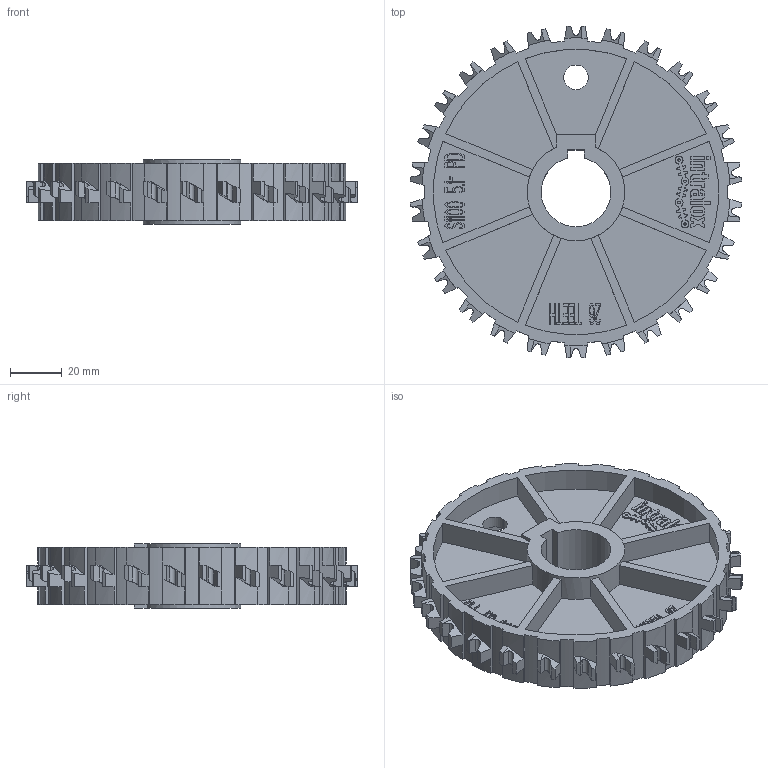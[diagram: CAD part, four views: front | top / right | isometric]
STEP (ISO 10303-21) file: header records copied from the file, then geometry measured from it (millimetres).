
FILE_DESCRIPTION((''),'2;1');
FILE_NAME('S1100_SPROCKET_51X25_PILOT','2008-12-12T',('jmumphre'),(''),'PRO/ENGINEER BY PARAMETRIC TECHNOLOGY CORPORATION, 2008150','PRO/ENGINEER BY PARAMETRIC TECHNOLOGY CORPORATION, 2008150','');
FILE_SCHEMA(('CONFIG_CONTROL_DESIGN'));
Length unit declared in the file: inch
Products named in the file (1): S1100_SPROCKET_51X25_PILOT
Bounding box: 128.44 x 128.52 x 24.89 mm (x, y, z)
Volume: 105151.2 mm3; surface area: 54021.9 mm2
Topology: 1 solids, 1 shells, 1111 faces, 3149 edges, 2082 vertices
Faces by surface type: plane 882, cylinder 229
Entity records: 36605 total; most frequent: CARTESIAN_POINT 7486, ORIENTED_EDGE 6298, DIRECTION 5701, EDGE_CURVE 3149, VECTOR 2611, LINE 2611, VERTEX_POINT 2082, AXIS2_PLACEMENT_3D 1545
